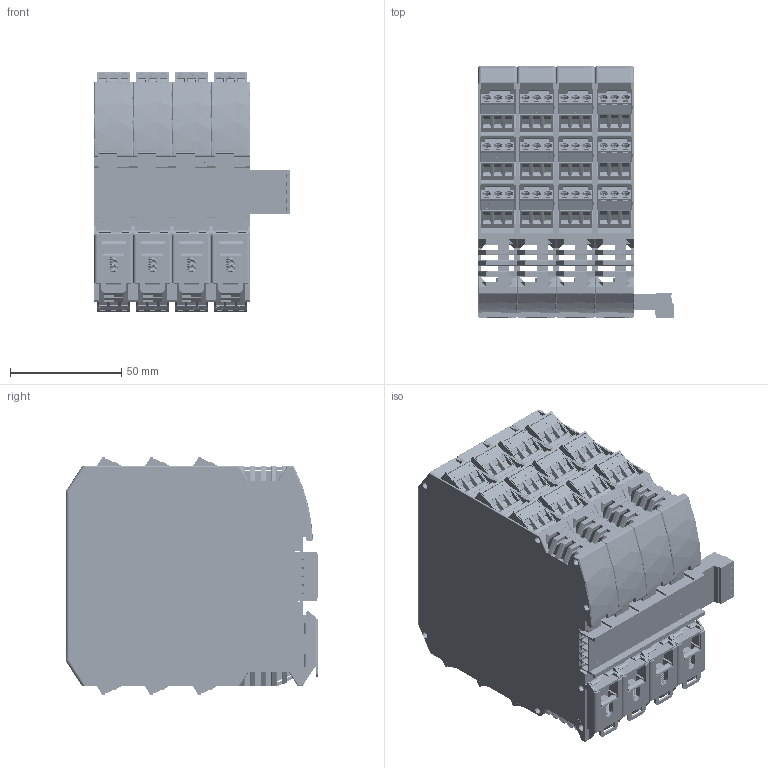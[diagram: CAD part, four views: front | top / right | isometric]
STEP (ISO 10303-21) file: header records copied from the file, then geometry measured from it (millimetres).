
FILE_DESCRIPTION(('STEP AP203'), '1');
FILE_NAME('Êîíòðîëëåð îòîïëåíèÿ è ÃÂÑ äëÿ ÈÒÏ ñ ìîäóëÿìè_ ÊÎÍÒÓÐ-À21 KIT', '2025-02-12T13:03:34', ('ÝËÕÀÐÒ'), ('ÝËÕÀÐÒ'), 'ASCON STEP Converter 1.6', 'ASCON Math Kernel', '');
FILE_SCHEMA(('CONFIG_CONTROL_DESIGN'));
Length unit declared in the file: millimetre
Products named in the file (3): ﾊﾎﾍﾒﾓﾐ-ﾀ21 KIT
Assembly tree (4 placements, depth 2):
  ﾊﾎﾍﾒﾓﾐ-ﾀ21 KIT
    (unnamed)
    (unnamed)  x3
Bounding box: 88.1 x 113.65 x 107.7 mm (x, y, z)
Volume: 278062.8 mm3; surface area: 434183 mm2
Topology: 66 solids, 93 shells, 34167 faces, 93826 edges, 60535 vertices
Faces by surface type: plane 23524, cylinder 5938, extrusion 1973, bspline 1081, torus 805, sphere 578, cone 268
Full cylindrical faces by diameter (mm): 0.5 x1, 0.6 x2, 1 x4, 1.35 x8, 1.4 x24, 1.5 x80, 1.6 x40, 1.9 x5, 2.2 x48, 2.5 x72, 2.8 x69, 2.87 x5, 2.9 x64, 2.95 x10, 3 x64, 3.3 x69, 3.85 x138
Entity records: 700008 total; most frequent: CARTESIAN_POINT 143157, ORIENTED_EDGE 91438, DIRECTION 78897, EDGE_CURVE 45719, VECTOR 34863, LINE 33878, VERTEX_POINT 30000, AXIS2_PLACEMENT_3D 22017
